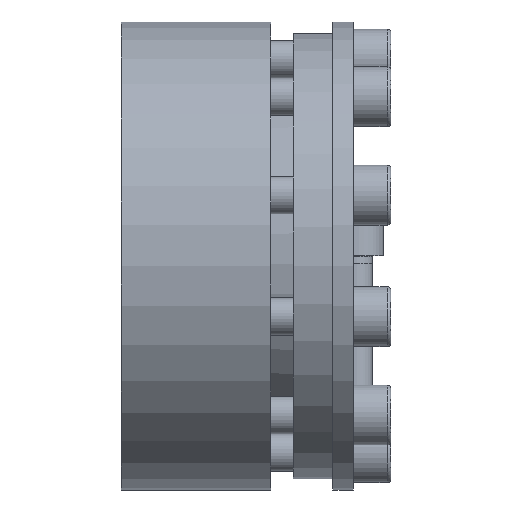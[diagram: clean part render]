
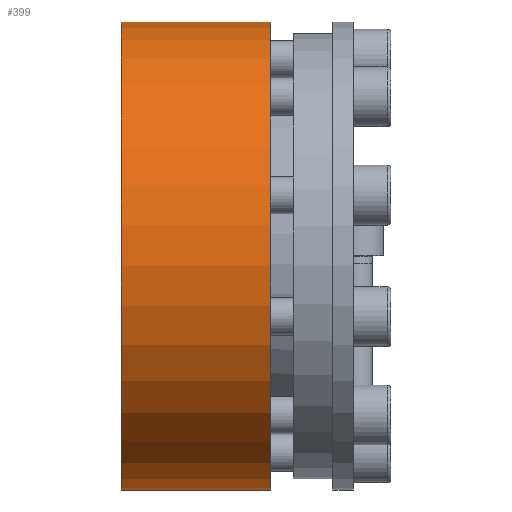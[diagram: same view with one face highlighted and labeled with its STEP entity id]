
A CAD part, left-side view. The second image highlights one B-rep face of the part: STEP entity #399.
In plain terms, the highlighted cylindrical face has radius 62.5 mm (diameter 125 mm), a partial arc.
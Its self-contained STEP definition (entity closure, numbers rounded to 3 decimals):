
#399 = ADVANCED_FACE( '', ( #639 ), #640, .T. );
#639 = FACE_OUTER_BOUND( '', #827, .T. );
#640 = CYLINDRICAL_SURFACE( '', #828, 62.5 );
#827 = EDGE_LOOP( '', ( #1097, #1098, #1099, #1100 ) );
#828 = AXIS2_PLACEMENT_3D( '', #1101, #1102, #1103 );
#1097 = ORIENTED_EDGE( '', *, *, #1430, .F. );
#1098 = ORIENTED_EDGE( '', *, *, #1437, .T. );
#1099 = ORIENTED_EDGE( '', *, *, #1442, .T. );
#1100 = ORIENTED_EDGE( '', *, *, #1402, .T. );
#1101 = CARTESIAN_POINT( '', ( 0., -60., 0. ) );
#1102 = DIRECTION( '', ( 0., 1., 0. ) );
#1103 = DIRECTION( '', ( 0., 0., -1. ) );
#1402 = EDGE_CURVE( '', #1555, #1553, #1556, .T. );
#1430 = EDGE_CURVE( '', #1606, #1553, #1608, .T. );
#1437 = EDGE_CURVE( '', #1606, #1619, #1621, .F. );
#1442 = EDGE_CURVE( '', #1619, #1555, #1629, .T. );
#1553 = VERTEX_POINT( '', #1707 );
#1555 = VERTEX_POINT( '', #1710 );
#1556 = LINE( '', #1711, #1712 );
#1606 = VERTEX_POINT( '', #1768 );
#1608 = CIRCLE( '', #1771, 62.5 );
#1619 = VERTEX_POINT( '', #1786 );
#1621 = LINE( '', #1789, #1790 );
#1629 = CIRCLE( '', #1801, 62.5 );
#1707 = CARTESIAN_POINT( '', ( 20.499, 22., 59.043 ) );
#1710 = CARTESIAN_POINT( '', ( 20.499, 62., 59.043 ) );
#1711 = CARTESIAN_POINT( '', ( 20.499, -60., 59.043 ) );
#1712 = VECTOR( '', #1859, 1000. );
#1768 = CARTESIAN_POINT( '', ( 18.121, 22., 59.815 ) );
#1771 = AXIS2_PLACEMENT_3D( '', #1930, #1931, #1932 );
#1786 = CARTESIAN_POINT( '', ( 18.121, 62., 59.815 ) );
#1789 = CARTESIAN_POINT( '', ( 18.121, -60., 59.815 ) );
#1790 = VECTOR( '', #1944, 1000. );
#1801 = AXIS2_PLACEMENT_3D( '', #1951, #1952, #1953 );
#1859 = DIRECTION( '', ( 0., -1., 0. ) );
#1930 = CARTESIAN_POINT( '', ( 0., 22., 0. ) );
#1931 = DIRECTION( '', ( 0., -1., 0. ) );
#1932 = DIRECTION( '', ( 0., 0., -1. ) );
#1944 = DIRECTION( '', ( 0., -1., 0. ) );
#1951 = CARTESIAN_POINT( '', ( 0., 62., 0. ) );
#1952 = DIRECTION( '', ( 0., -1., 0. ) );
#1953 = DIRECTION( '', ( 0., 0., -1. ) );
